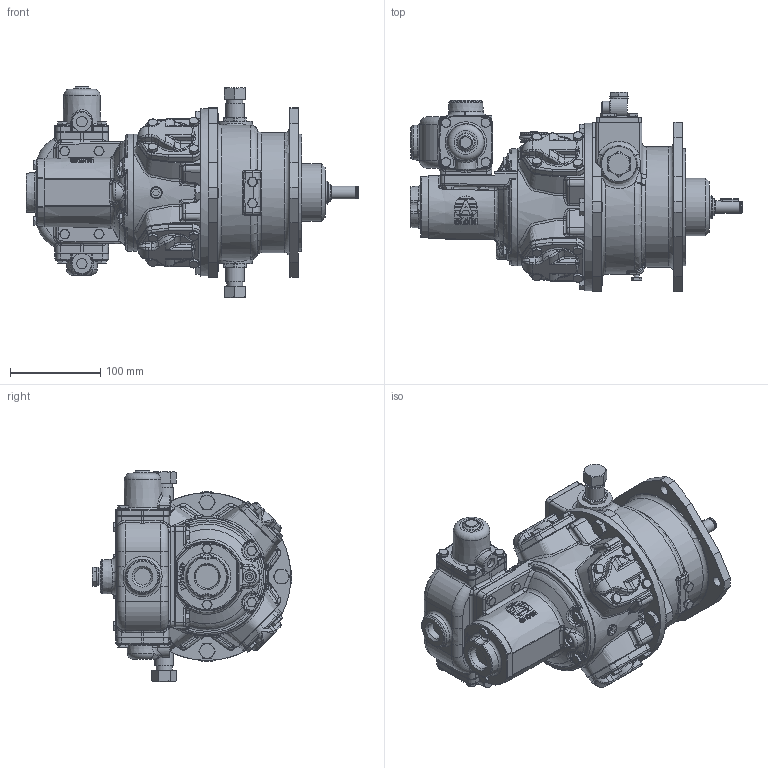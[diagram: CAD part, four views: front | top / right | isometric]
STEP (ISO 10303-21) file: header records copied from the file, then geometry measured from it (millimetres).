
FILE_DESCRIPTION (( 'STEP AP214' ), '1' );
FILE_NAME ('RM110+RCV110+RM110 Brake Defeature + Logo.STEP', '2023-05-17T13:00:05', ( '' ), ( '' ), 'SwSTEP 2.0', 'SolidWorks 2022', '' );
FILE_SCHEMA (( 'AUTOMOTIVE_DESIGN' ));
Length unit declared in the file: millimetre
Products named in the file (1): RM110+RCV110+RM110 Brake Defeature + Logo
Bounding box: 368.21 x 221.4 x 234.1 mm (x, y, z)
Volume: 5357071.9 mm3; surface area: 301233.7 mm2
Topology: 1 solids, 13 shells, 3430 faces, 8367 edges, 5016 vertices
Faces by surface type: plane 1493, bspline 679, cylinder 527, cone 517, torus 176, sphere 38
Full cylindrical faces by diameter (mm): 2 x2, 4.2 x1, 5.1 x1, 6.05 x2, 8 x1, 8.566 x3, 9 x9, 10 x49, 11 x8, 11.445 x1, 11.7 x1, 11.875 x8, 13 x8, 13.157 x2, 14 x2, 16 x4, 17.78 x2, 18.631 x2, 19 x1, 20.57 x2, 20.955 x2, 21.5 x3, 25.4 x1, 25.46 x1, 38.423 x1, 38.45 x1, 40.59 x1, 46.99 x1, 64 x1, 107.95 x1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
Entity records: 190380 total; most frequent: CARTESIAN_POINT 80418, ORIENTED_EDGE 15928, DIRECTION 13422, EDGE_CURVE 7964, AXIS2_PLACEMENT_3D 5225, VERTEX_POINT 4895, EDGE_LOOP 3783, FACE_OUTER_BOUND 3578
